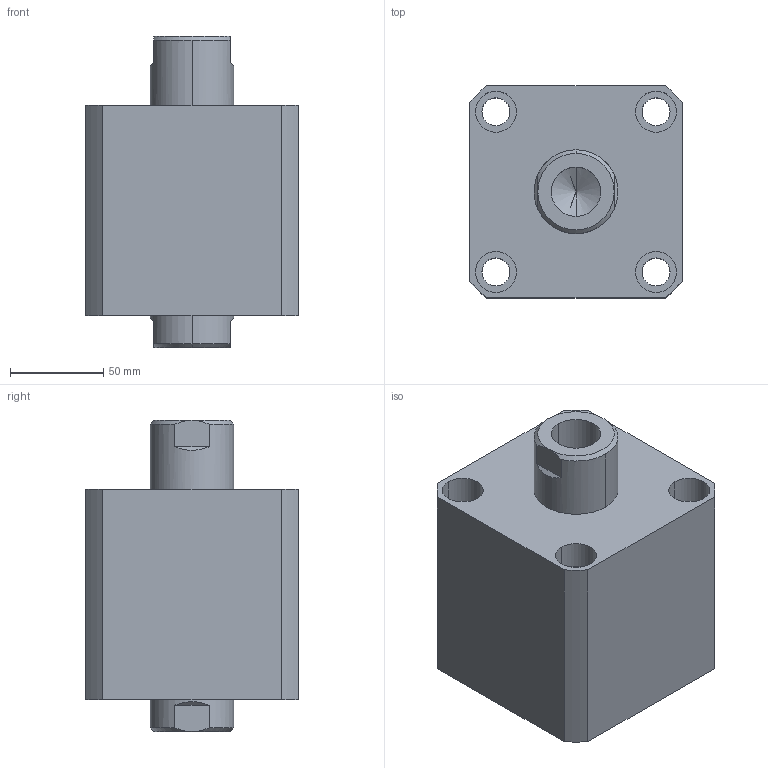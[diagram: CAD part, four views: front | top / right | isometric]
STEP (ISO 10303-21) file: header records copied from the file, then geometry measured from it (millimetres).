
FILE_DESCRIPTION (( 'STEP AP214' ), '1' );
FILE_NAME ('chtb-sw80x20n_asm.STEP', '2018-05-28T00:44:51', ( 'Windows' ), ( 'Microsoft' ), 'SwSTEP 2.0', 'SolidWorks 2015', '' );
FILE_SCHEMA (( 'AUTOMOTIVE_DESIGN' ));
Length unit declared in the file: millimetre
Products named in the file (4): CHTB-SW80X20NBT; CHTB-SD80X20NHSG; CHTB-SD80QG; chtb-sw80x20n_asm
Assembly tree (3 placements, depth 2):
  chtb-sw80x20n_asm
    CHTB-SD80QG
    CHTB-SD80X20NHSG
    CHTB-SW80X20NBT
Bounding box: 114 x 114 x 167 mm (x, y, z)
Volume: 1298493.5 mm3; surface area: 192887.8 mm2
Topology: 3 solids, 3 shells, 208 faces, 550 edges, 365 vertices
Faces by surface type: cylinder 109, plane 42, cone 25, torus 18, bspline 14
Entity records: 15645 total; most frequent: CARTESIAN_POINT 10539, ORIENTED_EDGE 1084, DIRECTION 970, EDGE_CURVE 542, AXIS2_PLACEMENT_3D 407, VERTEX_POINT 365, EDGE_LOOP 249, FACE_OUTER_BOUND 208
